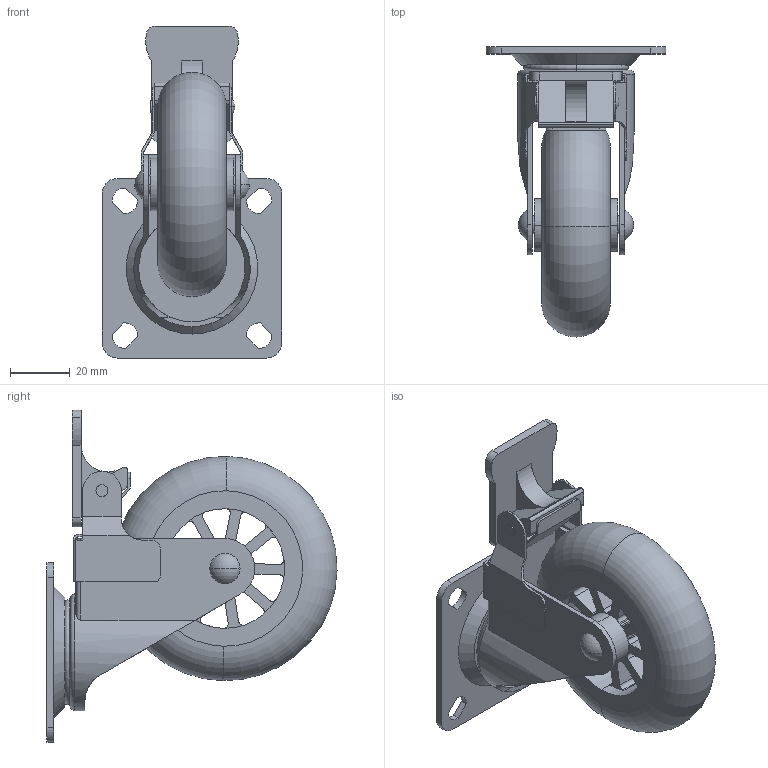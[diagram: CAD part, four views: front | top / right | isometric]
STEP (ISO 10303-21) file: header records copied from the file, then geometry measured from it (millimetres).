
FILE_DESCRIPTION (( 'STEP AP214' ), '1' );
FILE_NAME ('EMMA-75S-P.STEP', '2020-04-07T06:03:26', ( '' ), ( '' ), 'SwSTEP 2.0', 'SolidWorks 2019', '' );
FILE_SCHEMA (( 'AUTOMOTIVE_DESIGN' ));
Length unit declared in the file: millimetre
Products named in the file (8): EMMA-75_stopper_P1; EMMA-75-P_partsA; EMMA-75_stopper_pin; EMMA-75_jiku; EMMA-75_wheel; EMMA-75_stopper_P2; EMMA-75-P_partsB; EMMA-75S-P
Assembly tree (7 placements, depth 2):
  EMMA-75S-P
    EMMA-75-P_partsB
    EMMA-75_wheel
    EMMA-75-P_partsA
    EMMA-75_jiku
    EMMA-75_stopper_P1
    EMMA-75_stopper_P2
    EMMA-75_stopper_pin
Bounding box: 60 x 96.99 x 111 mm (x, y, z)
Volume: 104907.6 mm3; surface area: 47899.9 mm2
Topology: 7 solids, 7 shells, 254 faces, 704 edges, 469 vertices
Faces by surface type: cylinder 120, plane 120, torus 6, sphere 6, cone 2
Entity records: 8778 total; most frequent: CARTESIAN_POINT 1609, DIRECTION 1522, ORIENTED_EDGE 1408, EDGE_CURVE 704, AXIS2_PLACEMENT_3D 574, VERTEX_POINT 469, VECTOR 374, LINE 374
